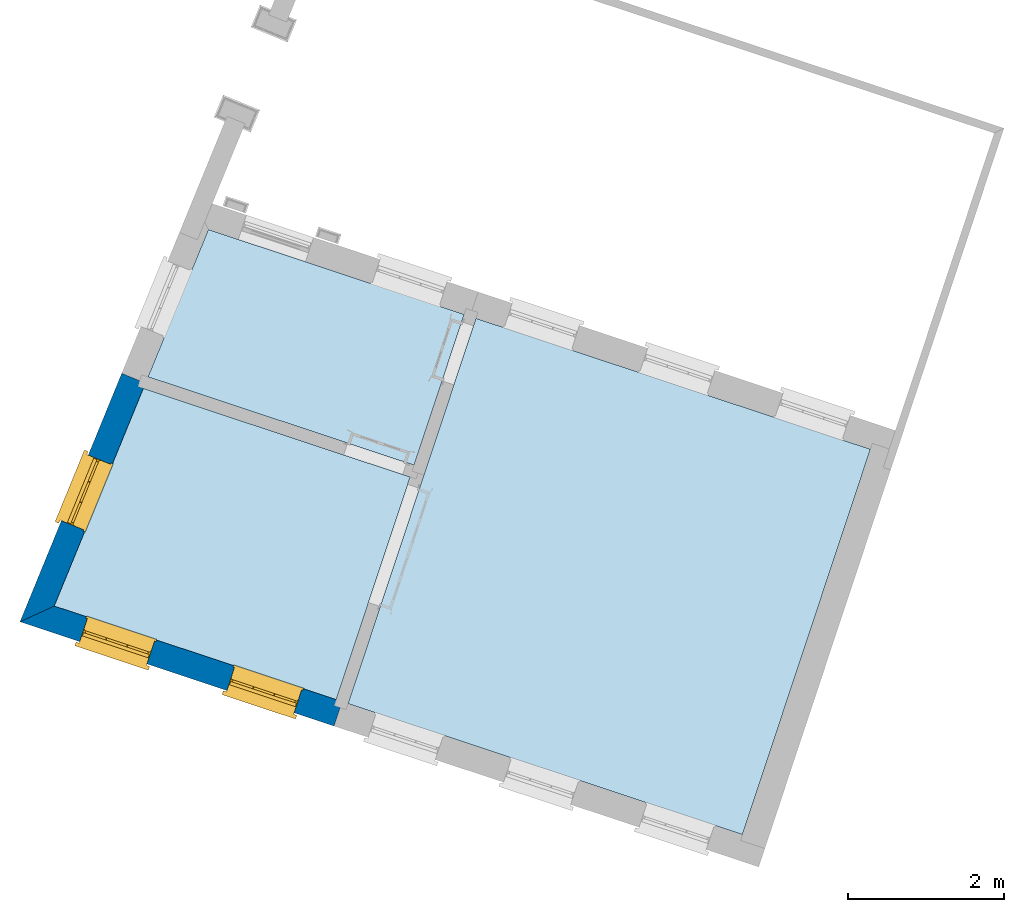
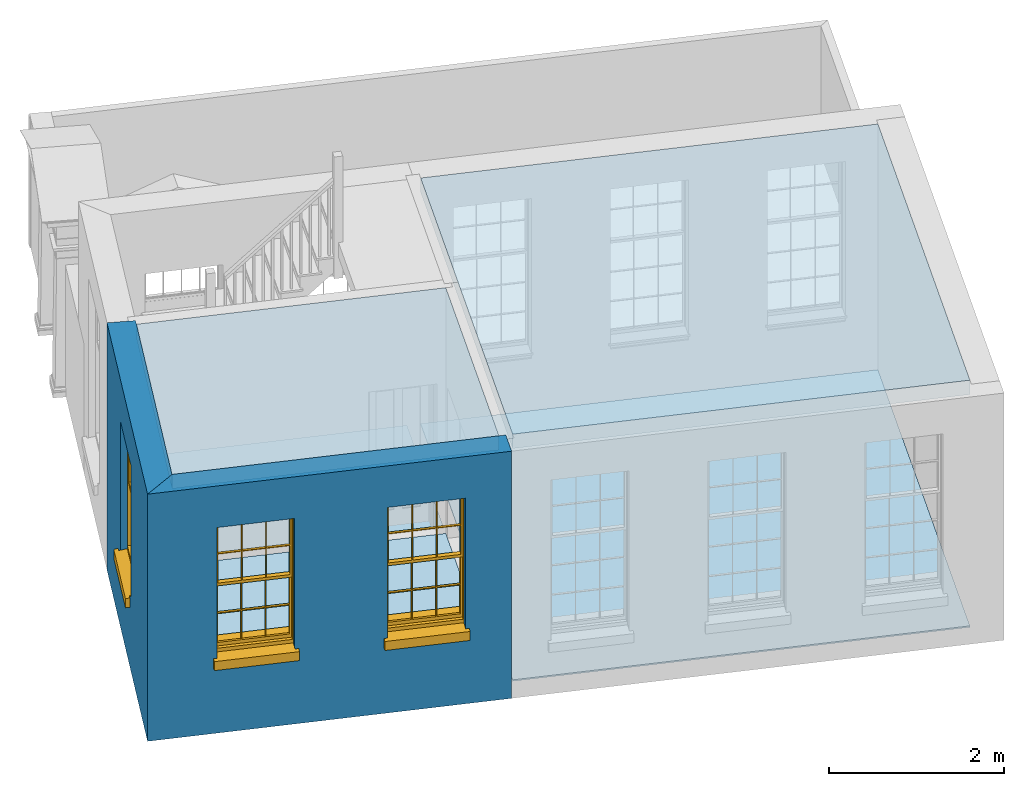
# One storey, part 1 of 6: 5 slabs, 3 windows, 2 walls, 3 openings.
"""IFC4 building model written with IfcOpenShell, lengths in metres."""

from ifc_helpers import new_model, si_unit, frame, origin, origin_with_axes, place, context, subcontext, project, spatial, polyline, outline, extrude, faceted_brep, source, transform, mapped, material, layer, layer_set, layer_usage, type_object, type_shapes, element, fill, save


model = new_model("IFC4")

# Units and contexts
model_context = context("Model", 3, world=origin_with_axes())
body_context = subcontext(model_context, "Body", "Model", "MODEL_VIEW")
ifc_project = project(units=[si_unit("PLANEANGLEUNIT", "RADIAN"), si_unit("MASSUNIT", "GRAM", prefix="KILO"), si_unit("FORCEUNIT", "NEWTON", prefix="KILO"), si_unit("LENGTHUNIT", "METRE"), si_unit("AREAUNIT", "SQUARE_METRE"), si_unit("VOLUMEUNIT", "CUBIC_METRE")], contexts=[model_context, model_context])

# Sites, building, storey
site_1_placement = place(None, origin_with_axes())
site_1 = spatial("IfcSite", under=ifc_project, at=site_1_placement, Name="Tamar")
site_2_placement = place(site_1_placement, origin_with_axes())
site_2 = spatial("IfcSite", under=site_1, at=site_2_placement, Name="Site plot-16", CompositionType="ELEMENT")
building_placement = place(None, origin_with_axes())
building = spatial("IfcBuilding", under=site_2, at=building_placement, Name="Building plot-16", CompositionType="ELEMENT")
storey_placement = place(None, frame((0.0, 0.0, 26.0), z_axis=(0.0, 0.0, 1.0), x_axis=(1.0, 0.0, 0.0)))
storey = spatial("IfcBuildingStorey", under=building, at=storey_placement, Name="plot-16 0", CompositionType="ELEMENT", Elevation=26.0)

# Slabs
slab_1_placement = place(storey_placement, frame((254.624709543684, 299.595801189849, 0.0)))
element("IfcSlab", 1, at=slab_1_placement, inside=storey, Name="My Slab", ObjectType="Slab", PredefinedType="FLOOR", context=body_context, shape_type="SweptSolid", body=[
    extrude(outline(polyline([(0.0, 0.0), (-0.775151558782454, -1.89281482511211), (2.642377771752, -3.02723479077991), (3.28525618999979, -1.09051301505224), (0.0, 0.0)])), origin_with_axes(), (0.0, 0.0, 1.0), 0.02),
])
slab_2_placement = place(storey_placement, frame((253.788780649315, 297.55457636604, 3.25)))
element("IfcSlab", 2, at=slab_2_placement, inside=storey, Name="My Slab", ObjectType="Slab", PredefinedType="FLOOR", context=body_context, shape_type="SweptSolid", body=[
    extrude(outline(polyline([(0.0, 0.0), (-1.14506928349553, -2.79610366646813), (2.47822770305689, -3.99882646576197), (3.42790047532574, -1.13786257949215), (0.0, 0.0)])), origin_with_axes(), (0.0, 0.0, 1.0), 0.2),
])
slab_3_placement = place(storey_placement, frame((253.788780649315, 297.55457636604, 0.0)))
element("IfcSlab", 3, at=slab_3_placement, inside=storey, Name="My Slab", ObjectType="Slab", PredefinedType="FLOOR", context=body_context, shape_type="SweptSolid", body=[
    extrude(outline(polyline([(0.0, 0.0), (-1.14506928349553, -2.79610366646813), (2.47822770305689, -3.99882646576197), (3.42790047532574, -1.13786257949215), (0.0, 0.0)])), origin_with_axes(), (0.0, 0.0, 1.0), 0.02),
])
slab_4_placement = place(storey_placement, frame((261.485987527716, 291.82335389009, 3.25)))
element("IfcSlab", 4, at=slab_4_placement, inside=storey, Name="My Slab", ObjectType="Slab", PredefinedType="FLOOR", context=body_context, shape_type="SweptSolid", body=[
    extrude(outline(polyline([(0.0, 0.0), (1.64295738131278, 4.94953827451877), (-3.42416918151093, 6.63152809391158), (-5.06712656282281, 1.68198981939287), (0.0, 0.0)])), origin_with_axes(), (0.0, 0.0, 1.0), 0.2),
])
slab_5_placement = place(storey_placement, frame((261.485987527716, 291.82335389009, 0.0)))
element("IfcSlab", 5, at=slab_5_placement, inside=storey, Name="My Slab", ObjectType="Slab", PredefinedType="FLOOR", context=body_context, shape_type="SweptSolid", body=[
    extrude(outline(polyline([(0.0, 0.0), (1.64295738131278, 4.94953827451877), (-3.42416918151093, 6.63152809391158), (-5.06712656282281, 1.68198981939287), (0.0, 0.0)])), origin_with_axes(), (0.0, 0.0, 1.0), 0.02),
])

# Wall, opening, window
ifc_material = material(Name="Masonry")
ifc_layer = layer(ifc_material, 0.33, ventilated=False)
ifc_layer_set = layer_set([ifc_layer], Name="exterior_0.08_0.25")
ifc_layer_usage = layer_usage(ifc_layer_set, "AXIS2", "POSITIVE", -0.25)
wall_type = type_object("IfcWallType", Name="exterior_0.08_0.25", PredefinedType="SOLIDWALL", material=ifc_layer_set)
wall_1_placement = place(storey_placement, frame((253.743066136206, 297.654043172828, 0.0), z_axis=(0.0, 0.0, 1.0), x_axis=(-0.378975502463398, -0.925406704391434, 0.0)))
wall_1 = element("IfcWall", 6, at=wall_1_placement, inside=storey, type_object=wall_type, material=ifc_layer_usage, Name="exterior", context=body_context, shape_type="SweptSolid", body=[
    extrude(outline(polyline([(-2.28843251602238e-15, 0.0800000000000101), (1.68064262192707e-15, -0.249999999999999), (3.44951576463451, -0.250000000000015), (3.0962088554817, 0.0800000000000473), (-2.28843251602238e-15, 0.0800000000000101)])), origin_with_axes(), (0.0, 0.0, 1.0), 3.45),
])
opening_1_placement = place(wall_1_placement, frame((1.13592950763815, 0.0, 1.05)))
opening_1 = element("IfcOpeningElement", 7, at=opening_1_placement, cuts=wall_1, Name="My Opening", ObjectType="Opening", context=body_context, shape_type="SweptSolid", body=[
    extrude(outline(polyline([(0.0, -0.269999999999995), (0.910000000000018, -0.269999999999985), (0.909999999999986, 1.1), (-3.30846461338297e-14, 1.09999999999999), (0.0, -0.269999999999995)])), origin_with_axes(), (0.0, 0.0, 1.0), 1.82),
])
window_type = type_object("IfcWindowType", Name="sash_big", PartitioningType="DOUBLE_PANEL_HORIZONTAL", PredefinedType="NOTDEFINED")
shared_shape = source(origin(), body_context, "Body", "Brep", [
    faceted_brep([(0.033125, 0.145, 0.975209), (0.01, 0.145, 0.975209), (0.033125, 0.145, 1.376042), (0.876875, 0.145, 0.975209), (0.876875, 0.145, 1.376042), (0.9, 0.145, 0.975209), (0.876875, 0.145, 1.386042), (0.876875, 0.145, 1.786875), (0.9, 0.145, 1.81), (0.033125, 0.145, 1.786875), (0.033125, 0.145, 1.386042), (0.01, 0.145, 1.81), (0.876875, 0.115, 1.376042), (0.876875, 0.115, 0.975209), (0.9, 0.115, 0.937083), (0.033125, 0.115, 1.786875), (0.01, 0.115, 1.81), (0.033125, 0.115, 1.386042), (0.01, 0.115, 0.937083), (0.033125, 0.115, 0.975209), (0.033125, 0.115, 1.376042), (0.876875, 0.115, 1.786875), (0.876875, 0.115, 1.386042), (0.9, 0.115, 1.81), (0.033125, 0.145, 0.937083), (0.01, 0.145, 0.937083), (0.033125, 0.145, 0.53625), (0.876875, 0.145, 0.937083), (0.876875, 0.145, 0.53625), (0.9, 0.145, 0.937083), (0.876875, 0.145, 0.52625), (0.876875, 0.145, 0.125417), (0.9, 0.145, 0.077167), (0.033125, 0.145, 0.125417), (0.033125, 0.145, 0.52625), (0.01, 0.145, 0.077167), (-0.0425, 0.0, 0.01), (-0.0425, -0.05, 0.001667), (0.0, 0.0, 0.01), (0.9525, 0.0, 0.01), (0.91, 0.0, 0.01), (0.9525, -0.05, 0.001667), (-0.02, 0.33, 0.077167), (0.0, 0.33, 0.077167), (-0.02, 0.36, 0.077167), (0.0, 0.19, 0.077167), (0.01, 0.19, 0.077167), (0.91, 0.19, 0.077167), (0.91, 0.33, 0.077167), (0.9, 0.19, 0.077167), (0.93, 0.33, 0.077167), (0.93, 0.36, 0.077167), (0.01, 0.175, 0.975209), (0.9, 0.175, 0.975209), (0.876875, 0.175, 0.125417), (0.876875, 0.175, 0.52625), (0.9, 0.175, 0.077167), (0.876875, 0.175, 0.53625), (0.876875, 0.175, 0.937083), (0.033125, 0.175, 0.125417), (0.01, 0.175, 0.077167), (0.033125, 0.175, 0.52625), (0.033125, 0.175, 0.937083), (0.033125, 0.175, 0.53625), (-0.02, 0.33, 0.052167), (-0.02, 0.36, 0.052167), (0.93, 0.36, 0.052167), (0.93, 0.33, 0.052167), (0.91, 0.33, 0.052167), (0.0, 0.33, 0.052167), (0.91, 0.1, 0.026667), (0.0, 0.1, 0.026667), (-0.0425, -0.05, -0.123333), (0.9525, -0.05, -0.123333), (-0.0425, 0.0, -0.123333), (0.9525, 0.0, -0.123333), (0.01, 0.19, 1.81), (0.9, 0.19, 1.81), (0.0, 0.19, 1.82), (0.91, 0.19, 1.82), (0.01, 0.1, 0.077167), (0.9, 0.1, 0.077167), (0.592292, 0.145, 0.125417), (0.592292, 0.175, 0.125417), (0.317708, 0.175, 0.125417), (0.317708, 0.145, 0.125417), (0.592292, 0.145, 0.53625), (0.317708, 0.145, 0.53625), (0.317708, 0.145, 0.52625), (0.592292, 0.145, 0.52625), (0.592292, 0.175, 0.53625), (0.317708, 0.175, 0.53625), (0.592292, 0.115, 1.386042), (0.592292, 0.145, 1.386042), (0.317708, 0.145, 1.386042), (0.317708, 0.115, 1.386042), (0.317708, 0.115, 1.376042), (0.592292, 0.115, 1.376042), (0.317708, 0.145, 1.376042), (0.592292, 0.145, 1.376042), (0.602292, 0.115, 1.376042), (0.592292, 0.115, 0.975209), (0.602292, 0.115, 0.975209), (0.602292, 0.145, 0.975209), (0.592292, 0.145, 0.975209), (0.602292, 0.145, 1.376042), (0.602292, 0.175, 0.53625), (0.602292, 0.145, 0.53625), (0.317708, 0.175, 0.52625), (0.307708, 0.175, 0.125417), (0.307708, 0.175, 0.52625), (0.602292, 0.175, 0.52625), (0.602292, 0.175, 0.125417), (0.592292, 0.175, 0.52625), (0.307708, 0.175, 0.53625), (0.317708, 0.175, 0.937083), (0.307708, 0.175, 0.937083), (0.602292, 0.175, 0.937083), (0.592292, 0.175, 0.937083), (0.307708, 0.145, 0.52625), (0.307708, 0.145, 0.125417), (0.307708, 0.145, 0.53625), (0.307708, 0.145, 0.937083), (0.592292, 0.145, 0.937083), (0.317708, 0.145, 0.937083), (0.602292, 0.145, 0.937083), (0.602292, 0.145, 0.52625), (0.602292, 0.145, 0.125417), (0.307708, 0.115, 1.386042), (0.307708, 0.115, 1.376042), (0.307708, 0.115, 0.975209), (0.317708, 0.115, 0.975209), (0.317708, 0.115, 1.786875), (0.307708, 0.115, 1.786875), (0.602292, 0.115, 1.786875), (0.592292, 0.115, 1.786875), (0.602292, 0.115, 1.386042), (0.602292, 0.145, 1.386042), (0.307708, 0.145, 1.386042), (0.307708, 0.145, 1.786875), (0.317708, 0.145, 1.786875), (0.592292, 0.145, 1.786875), (0.602292, 0.145, 1.786875), (0.307708, 0.145, 1.376042), (0.317708, 0.145, 0.975209), (0.307708, 0.145, 0.975209), (0.91, 0.1, 1.82), (0.9, 0.1, 1.81), (0.01, 0.1, 1.81), (0.0, 0.1, 1.82), (0.91, 0.0, 0.0), (0.0, 0.0, 0.0), (0.91, 0.33, 0.0), (0.0, 0.33, 0.0)], [[[0, 1, 2]], [[3, 4, 5]], [[6, 7, 8]], [[9, 10, 11]], [[12, 13, 14]], [[15, 16, 17]], [[18, 19, 20]], [[21, 22, 23]], [[24, 25, 26]], [[27, 28, 29]], [[30, 31, 32]], [[33, 34, 35]], [[14, 27, 29]], [[25, 24, 18]], [[36, 37, 38]], [[39, 40, 41]], [[42, 43, 44]], [[45, 46, 43]], [[47, 48, 49]], [[50, 51, 48]], [[1, 0, 52]], [[5, 53, 3]], [[54, 55, 56]], [[57, 58, 53]], [[59, 60, 61]], [[62, 63, 52]], [[48, 43, 46, 49]], [[51, 44, 43, 48]], [[64, 42, 44, 65]], [[65, 44, 51, 66]], [[66, 51, 50, 67]], [[65, 66, 68, 69]], [[60, 56, 49, 46]], [[70, 71, 38, 40]], [[37, 41, 40, 38]], [[37, 72, 73, 41]], [[74, 75, 73, 72]], [[8, 11, 76, 77]], [[76, 78, 79, 77]], [[32, 35, 80, 81]], [[81, 80, 71, 70]], [[82, 83, 84, 85]], [[86, 87, 88, 89]], [[86, 90, 91, 87]], [[92, 93, 94, 95]], [[92, 95, 96, 97]], [[96, 98, 99, 97]], [[100, 97, 101, 102]], [[103, 104, 99, 105]], [[97, 99, 104, 101]], [[102, 103, 105, 100]], [[28, 57, 106, 107]], [[108, 84, 109, 110]], [[111, 112, 83, 113]], [[114, 110, 61, 63]], [[90, 113, 108, 91]], [[115, 91, 114, 116]], [[117, 106, 90, 118]], [[111, 106, 57, 55]], [[119, 110, 109, 120]], [[34, 61, 110, 119]], [[89, 113, 83, 82]], [[88, 108, 113, 89]], [[85, 84, 108, 88]], [[121, 114, 63, 26]], [[122, 116, 114, 121]], [[123, 118, 90, 86]], [[87, 91, 115, 124]], [[107, 106, 117, 125]], [[126, 111, 55, 30]], [[127, 112, 111, 126]], [[126, 30, 28, 107]], [[88, 119, 120, 85]], [[126, 89, 82, 127]], [[125, 123, 86, 107]], [[121, 26, 34, 119]], [[124, 122, 121, 87]], [[128, 17, 20, 129]], [[96, 129, 130, 131]], [[132, 133, 128, 95]], [[134, 135, 92, 136]], [[100, 12, 22, 136]], [[137, 6, 4, 105]], [[94, 138, 139, 140]], [[137, 93, 141, 142]], [[99, 98, 94, 93]], [[143, 2, 10, 138]], [[144, 145, 143, 98]], [[129, 143, 145, 130]], [[20, 2, 143, 129]], [[131, 144, 98, 96]], [[128, 138, 10, 17]], [[133, 139, 138, 128]], [[135, 141, 93, 92]], [[95, 94, 140, 132]], [[22, 6, 137, 136]], [[136, 137, 142, 134]], [[100, 105, 4, 12]], [[107, 86, 89, 126]], [[106, 111, 113, 90]], [[91, 108, 110, 114]], [[87, 121, 119, 88]], [[97, 100, 136, 92]], [[129, 96, 95, 128]], [[98, 143, 138, 94]], [[105, 99, 93, 137]], [[131, 101, 104, 144]], [[124, 115, 118, 123]], [[132, 140, 141, 135]], [[120, 109, 59, 33]], [[15, 9, 139, 133]], [[134, 142, 7, 21]], [[31, 54, 112, 127]], [[36, 74, 72, 37]], [[39, 41, 73, 75]], [[18, 14, 101, 131]], [[23, 16, 132, 135]], [[83, 56, 60, 84]], [[52, 53, 118, 115]], [[53, 52, 144, 104]], [[11, 8, 141, 140]], [[14, 18, 124, 123]], [[2, 1, 11, 10]], [[8, 5, 4, 6]], [[57, 53, 56, 55]], [[60, 52, 63, 61]], [[26, 25, 35, 34]], [[32, 29, 28, 30]], [[14, 23, 22, 12]], [[18, 20, 17, 16]], [[19, 0, 2, 20]], [[17, 10, 9, 15]], [[12, 4, 3, 13]], [[21, 7, 6, 22]], [[27, 58, 57, 28]], [[30, 55, 54, 31]], [[33, 59, 61, 34]], [[26, 63, 62, 24]], [[5, 8, 77, 53]], [[76, 11, 1, 52]], [[46, 45, 78, 76]], [[49, 77, 79, 47]], [[70, 146, 147, 81]], [[71, 80, 148, 149]], [[19, 130, 145, 0]], [[102, 13, 3, 103]], [[116, 122, 24, 62]], [[29, 32, 81, 14]], [[80, 35, 25, 18]], [[60, 46, 76, 52]], [[77, 49, 56, 53]], [[23, 14, 81, 147]], [[16, 148, 80, 18]], [[35, 85, 120]], [[120, 33, 35]], [[127, 82, 32]], [[32, 31, 127]], [[32, 82, 85, 35]], [[102, 101, 14]], [[14, 13, 102]], [[18, 131, 130]], [[130, 19, 18]], [[134, 21, 23]], [[23, 135, 134]], [[16, 15, 133]], [[133, 132, 16]], [[11, 140, 139]], [[139, 9, 11]], [[142, 141, 8]], [[8, 7, 142]], [[23, 147, 148, 16]], [[146, 149, 148, 147]], [[52, 115, 116]], [[116, 62, 52]], [[118, 53, 117]], [[58, 117, 53]], [[27, 125, 117, 58]], [[56, 83, 112]], [[112, 54, 56]], [[109, 84, 60]], [[60, 59, 109]], [[125, 27, 14]], [[14, 123, 125]], [[122, 124, 18]], [[18, 24, 122]], [[145, 144, 52]], [[52, 0, 145]], [[103, 3, 53]], [[53, 104, 103]], [[79, 78, 149, 146]], [[78, 45, 71, 149]], [[146, 70, 47, 79]], [[150, 75, 74, 151]], [[68, 66, 67]], [[48, 68, 67, 50]], [[69, 64, 65]], [[42, 64, 69, 43]], [[69, 68, 152, 153]], [[70, 68, 48, 47]], [[150, 152, 68, 70]], [[43, 69, 71, 45]], [[69, 153, 151, 71]], [[152, 150, 151, 153]], [[38, 151, 74, 36]], [[71, 151, 38]], [[39, 75, 150, 40]], [[40, 150, 70]]]),
])
type_shapes(window_type, [shared_shape])
window_1_placement = place(storey_placement, frame((253.0627168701, 296.705169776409, 1.05), z_axis=(0.0, 0.0, 1.0), x_axis=(-0.34486770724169, -0.842120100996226, 0.0)))
window_1 = element("IfcWindow", 8, at=window_1_placement, inside=storey, type_object=window_type, Name="kitchen street window", OverallHeight=1.82, OverallWidth=0.91, context=body_context, shape_type="MappedRepresentation", body=[
    mapped(shared_shape, transform((0.0, 0.0, 0.0), scale=1.0)),
])
fill(opening_1, window_1)

# Wall, openings, windows
wall_2_placement = place(storey_placement, frame((252.537219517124, 294.709529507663, 0.0), z_axis=(0.0, 0.0, 1.0), x_axis=(0.949078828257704, -0.315038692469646, 0.0)))
wall_2 = element("IfcWall", 9, at=wall_2_placement, inside=storey, type_object=wall_type, material=ifc_layer_usage, Name="exterior", context=body_context, shape_type="SweptSolid", body=[
    extrude(outline(polyline([(0.0856501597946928, 0.0799999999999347), (-0.267656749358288, -0.249999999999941), (3.98334883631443, -0.249999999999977), (3.98334883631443, 0.079999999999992), (0.0856501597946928, 0.0799999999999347)])), origin_with_axes(), (0.0, 0.0, 1.0), 3.45),
])
opening_2_placement = place(wall_2_placement, frame((0.540837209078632, 0.0, 1.05)))
opening_2 = element("IfcOpeningElement", 10, at=opening_2_placement, cuts=wall_2, Name="My Opening", ObjectType="Opening", context=body_context, shape_type="SweptSolid", body=[
    extrude(outline(polyline([(0.0, -0.269999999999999), (0.909999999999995, -0.269999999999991), (0.909999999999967, 1.10000000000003), (-2.8421709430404e-14, 1.10000000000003), (0.0, -0.269999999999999)])), origin_with_axes(), (0.0, 0.0, 1.0), 1.82),
])
opening_3_placement = place(wall_2_placement, frame((2.53251162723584, 0.0, 1.05)))
opening_3 = element("IfcOpeningElement", 11, at=opening_3_placement, cuts=wall_2, Name="My Opening", ObjectType="Opening", context=body_context, shape_type="SweptSolid", body=[
    extrude(outline(polyline([(0.0, -0.270000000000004), (0.909999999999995, -0.269999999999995), (0.909999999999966, 1.10000000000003), (-2.8421709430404e-14, 1.10000000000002), (0.0, -0.270000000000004)])), origin_with_axes(), (0.0, 0.0, 1.0), 1.82),
])
window_2_placement = place(storey_placement, frame((252.965456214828, 294.282893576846, 1.05), z_axis=(0.0, 0.0, 1.0), x_axis=(0.863661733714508, -0.286685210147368, 0.0)))
window_2 = element("IfcWindow", 12, at=window_2_placement, inside=storey, type_object=window_type, Name="kitchen street window", OverallHeight=1.82, OverallWidth=0.91, context=body_context, shape_type="MappedRepresentation", body=[
    mapped(shared_shape, transform((0.0, 0.0, 0.0), scale=1.0)),
])
fill(opening_2, window_2)
window_3_placement = place(storey_placement, frame((254.855712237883, 293.655439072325, 1.05), z_axis=(0.0, 0.0, 1.0), x_axis=(0.863661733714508, -0.286685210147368, 0.0)))
window_3 = element("IfcWindow", 13, at=window_3_placement, inside=storey, type_object=window_type, Name="kitchen street window", OverallHeight=1.82, OverallWidth=0.91, context=body_context, shape_type="MappedRepresentation", body=[
    mapped(shared_shape, transform((0.0, 0.0, 0.0), scale=1.0)),
])
fill(opening_3, window_3)

save(model, "model.ifc")
